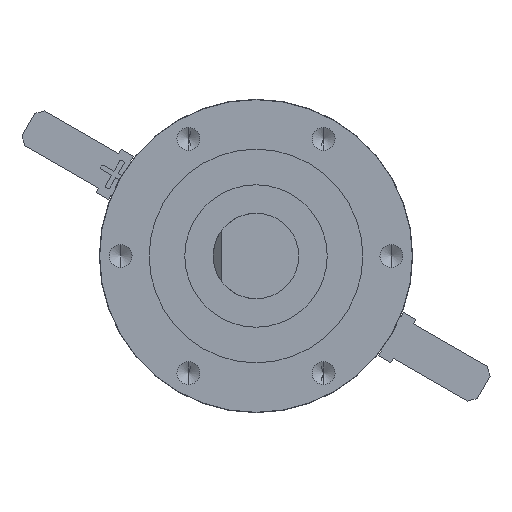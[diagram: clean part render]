
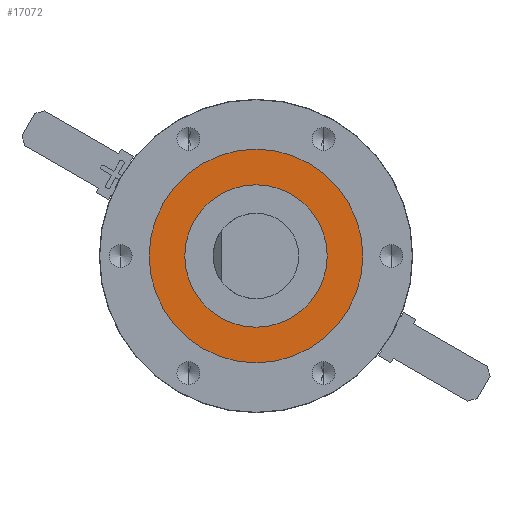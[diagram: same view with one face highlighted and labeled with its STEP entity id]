
A CAD part, left-side view. The second image highlights one B-rep face of the part: STEP entity #17072.
In plain terms, the highlighted planar face has unit normal (-1, 0, 0).
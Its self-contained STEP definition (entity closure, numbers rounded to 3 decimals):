
#634 = DIRECTION ( 'NONE',  ( 1., 0., 0. ) ) ;
#1869 = DIRECTION ( 'NONE',  ( 0., 0., -1. ) ) ;
#1963 = DIRECTION ( 'NONE',  ( 1., 0., 0. ) ) ;
#3262 = AXIS2_PLACEMENT_3D ( 'NONE', #40051, #20895, #1869 ) ;
#4466 = CIRCLE ( 'NONE', #31061, 7.5 ) ;
#5144 = VERTEX_POINT ( 'NONE', #13926 ) ;
#5758 = FACE_OUTER_BOUND ( 'NONE', #32410, .T. ) ;
#10846 = DIRECTION ( 'NONE',  ( 1., 0., 0. ) ) ;
#13015 = CARTESIAN_POINT ( 'NONE',  ( -2.1, 0., 0. ) ) ;
#13231 = EDGE_CURVE ( 'NONE', #28729, #34946, #26149, .T. ) ;
#13926 = CARTESIAN_POINT ( 'NONE',  ( -2.1, 0., 5. ) ) ;
#15060 = VERTEX_POINT ( 'NONE', #40822 ) ;
#15625 = EDGE_CURVE ( 'NONE', #5144, #15060, #30414, .T. ) ;
#16000 = ORIENTED_EDGE ( 'NONE', *, *, #13231, .F. ) ;
#16221 = DIRECTION ( 'NONE',  ( 0., 0., -1. ) ) ;
#16638 = CIRCLE ( 'NONE', #3262, 5. ) ;
#16807 = AXIS2_PLACEMENT_3D ( 'NONE', #13015, #35341, #16221 ) ;
#16987 = CARTESIAN_POINT ( 'NONE',  ( -2.1, 0., 0. ) ) ;
#17072 = ADVANCED_FACE ( 'NONE', ( #37694, #5758 ), #30008, .F. ) ;
#19680 = CARTESIAN_POINT ( 'NONE',  ( -2.1, 0., 0. ) ) ;
#20895 = DIRECTION ( 'NONE',  ( -1., 0., 0. ) ) ;
#20988 = CARTESIAN_POINT ( 'NONE',  ( -2.1, 0., 0. ) ) ;
#21230 = EDGE_LOOP ( 'NONE', ( #23786, #35415 ) ) ;
#22890 = DIRECTION ( 'NONE',  ( 0., 0., -1. ) ) ;
#23786 = ORIENTED_EDGE ( 'NONE', *, *, #25541, .F. ) ;
#24259 = DIRECTION ( 'NONE',  ( 0., 0., -1. ) ) ;
#25541 = EDGE_CURVE ( 'NONE', #15060, #5144, #16638, .T. ) ;
#26149 = CIRCLE ( 'NONE', #35391, 7.5 ) ;
#28729 = VERTEX_POINT ( 'NONE', #40964 ) ;
#30008 = PLANE ( 'NONE',  #31337 ) ;
#30414 = CIRCLE ( 'NONE', #16807, 5. ) ;
#31061 = AXIS2_PLACEMENT_3D ( 'NONE', #19680, #634, #22890 ) ;
#31337 = AXIS2_PLACEMENT_3D ( 'NONE', #16987, #10846, #33196 ) ;
#32208 = ORIENTED_EDGE ( 'NONE', *, *, #40009, .F. ) ;
#32410 = EDGE_LOOP ( 'NONE', ( #32208, #16000 ) ) ;
#33196 = DIRECTION ( 'NONE',  ( 0., 0., -1. ) ) ;
#34946 = VERTEX_POINT ( 'NONE', #38513 ) ;
#35341 = DIRECTION ( 'NONE',  ( -1., 0., 0. ) ) ;
#35391 = AXIS2_PLACEMENT_3D ( 'NONE', #20988, #1963, #24259 ) ;
#35415 = ORIENTED_EDGE ( 'NONE', *, *, #15625, .F. ) ;
#37694 = FACE_BOUND ( 'NONE', #21230, .T. ) ;
#38513 = CARTESIAN_POINT ( 'NONE',  ( -2.1, 0., -7.5 ) ) ;
#40009 = EDGE_CURVE ( 'NONE', #34946, #28729, #4466, .T. ) ;
#40051 = CARTESIAN_POINT ( 'NONE',  ( -2.1, 0., 0. ) ) ;
#40822 = CARTESIAN_POINT ( 'NONE',  ( -2.1, 0., -5. ) ) ;
#40964 = CARTESIAN_POINT ( 'NONE',  ( -2.1, 0., 7.5 ) ) ;
